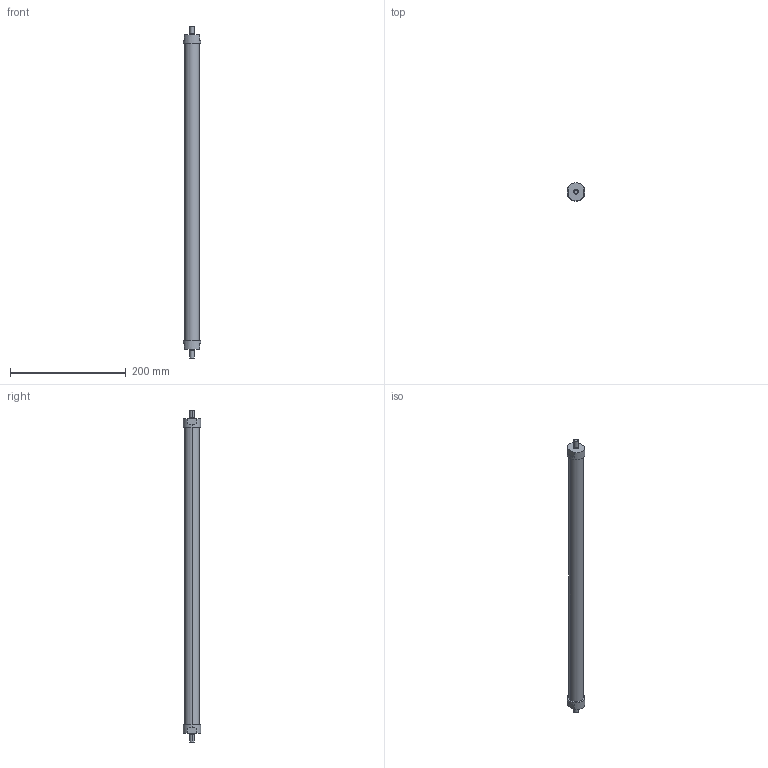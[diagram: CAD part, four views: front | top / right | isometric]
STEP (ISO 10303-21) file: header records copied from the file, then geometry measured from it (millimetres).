
FILE_DESCRIPTION(('STEP AP214'),'1');
FILE_NAME('ETT-R050N554.stp','2015-02-02T15:42:08',(' '),(' '),'Spatial InterOp 3D',' ',' ');
FILE_SCHEMA(('automotive_design'));
Length unit declared in the file: metre
Products named in the file (3): 1; 2; 3
Bounding box: 31 x 31 x 574 mm (x, y, z)
Volume: 275315.2 mm3; surface area: 46596.8 mm2
Topology: 1 solids, 7 shells, 30 faces, 81 edges, 63 vertices
Faces by surface type: plane 16, cylinder 14
Entity records: 1295 total; most frequent: DIRECTION 194, CARTESIAN_POINT 177, ORIENTED_EDGE 138, EDGE_CURVE 81, AXIS2_PLACEMENT_3D 80, VERTEX_POINT 63, CIRCLE 47, EDGE_LOOP 36
